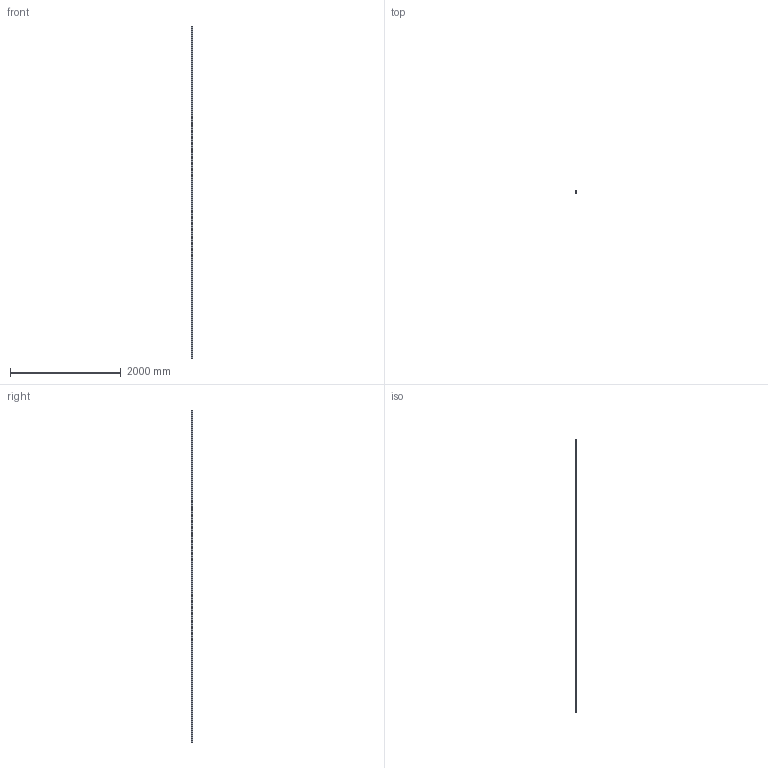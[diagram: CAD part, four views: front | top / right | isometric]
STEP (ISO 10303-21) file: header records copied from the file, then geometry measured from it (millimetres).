
FILE_DESCRIPTION(/* description */ ('Profilrohr Nr.0 - 6m Unverzinkt'),/* implementation_level */ '2;1');
FILE_NAME(/* name */ 'D:\Public\STP\011337010-TP.stp',/* time_stamp */ '2020-05-13T11:47:07+02:00',/* author */ ('O. Loukota'),/* organization */ (''),/* preprocessor_version */ 'ST-DEVELOPER v17.2',/* originating_system */ 'Autodesk Inventor 2019',/* authorisation */ '');
FILE_SCHEMA (('AUTOMOTIVE_DESIGN { 1 0 10303 214 3 1 1 }'));
Length unit declared in the file: millimetre
Products named in the file (1): 011337010
Bounding box: 29.5 x 27.5 x 6000 mm (x, y, z)
Volume: 945116.4 mm3; surface area: 1101456.3 mm2
Topology: 1 solids, 1 shells, 70 faces, 180 edges, 120 vertices
Faces by surface type: plane 58, cylinder 12
Entity records: 2149 total; most frequent: CARTESIAN_POINT 371, ORIENTED_EDGE 360, DIRECTION 346, EDGE_CURVE 180, LINE 156, VECTOR 156, VERTEX_POINT 120, AXIS2_PLACEMENT_3D 95
